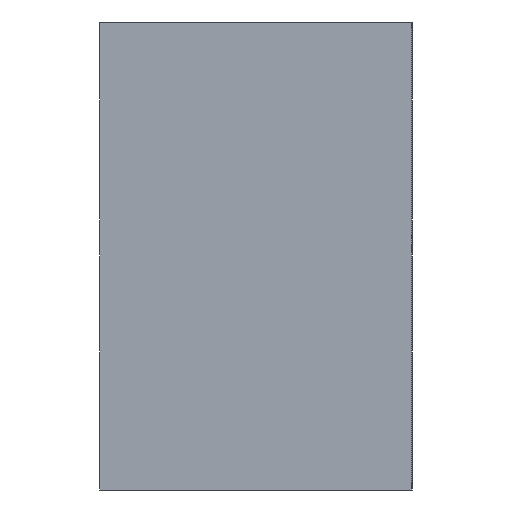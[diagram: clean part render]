
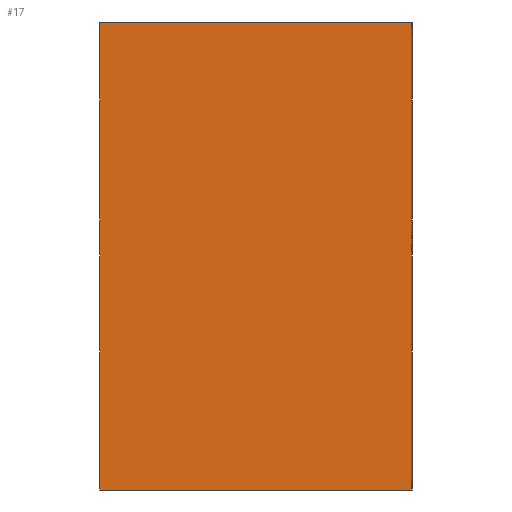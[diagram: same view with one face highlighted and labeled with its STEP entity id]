
A CAD part, left-side view. The second image highlights one B-rep face of the part: STEP entity #17.
In plain terms, the highlighted planar face has unit normal (-1, 0, 0).
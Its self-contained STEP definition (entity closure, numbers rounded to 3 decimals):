
#17 = ADVANCED_FACE('',(#18),#32,.F.);
#18 = FACE_BOUND('',#19,.F.);
#19 = EDGE_LOOP('',(#20,#55,#83,#111));
#20 = ORIENTED_EDGE('',*,*,#21,.F.);
#21 = EDGE_CURVE('',#22,#24,#26,.T.);
#22 = VERTEX_POINT('',#23);
#23 = CARTESIAN_POINT('',(5.,14.5,8.5));
#24 = VERTEX_POINT('',#25);
#25 = CARTESIAN_POINT('',(5.,14.5,11.5));
#26 = SURFACE_CURVE('',#27,(#31,#43),.PCURVE_S1.);
#27 = LINE('',#28,#29);
#28 = CARTESIAN_POINT('',(5.,14.5,8.5));
#29 = VECTOR('',#30,1.);
#30 = DIRECTION('',(0.,0.,1.));
#31 = PCURVE('',#32,#37);
#32 = PLANE('',#33);
#33 = AXIS2_PLACEMENT_3D('',#34,#35,#36);
#34 = CARTESIAN_POINT('',(5.,14.5,8.5));
#35 = DIRECTION('',(1.,0.,-0.));
#36 = DIRECTION('',(0.,0.,1.));
#37 = DEFINITIONAL_REPRESENTATION('',(#38),#42);
#38 = LINE('',#39,#40);
#39 = CARTESIAN_POINT('',(0.,0.));
#40 = VECTOR('',#41,1.);
#41 = DIRECTION('',(1.,0.));
#42 = ( GEOMETRIC_REPRESENTATION_CONTEXT(2) 
PARAMETRIC_REPRESENTATION_CONTEXT() REPRESENTATION_CONTEXT('2D SPACE',''
  ) );
#43 = PCURVE('',#44,#49);
#44 = PLANE('',#45);
#45 = AXIS2_PLACEMENT_3D('',#46,#47,#48);
#46 = CARTESIAN_POINT('',(5.,14.5,8.5));
#47 = DIRECTION('',(-0.,1.,0.));
#48 = DIRECTION('',(0.,0.,1.));
#49 = DEFINITIONAL_REPRESENTATION('',(#50),#54);
#50 = LINE('',#51,#52);
#51 = CARTESIAN_POINT('',(0.,0.));
#52 = VECTOR('',#53,1.);
#53 = DIRECTION('',(1.,0.));
#54 = ( GEOMETRIC_REPRESENTATION_CONTEXT(2) 
PARAMETRIC_REPRESENTATION_CONTEXT() REPRESENTATION_CONTEXT('2D SPACE',''
  ) );
#55 = ORIENTED_EDGE('',*,*,#56,.T.);
#56 = EDGE_CURVE('',#22,#57,#59,.T.);
#57 = VERTEX_POINT('',#58);
#58 = CARTESIAN_POINT('',(5.,16.5,8.5));
#59 = SURFACE_CURVE('',#60,(#64,#71),.PCURVE_S1.);
#60 = LINE('',#61,#62);
#61 = CARTESIAN_POINT('',(5.,14.5,8.5));
#62 = VECTOR('',#63,1.);
#63 = DIRECTION('',(-0.,1.,0.));
#64 = PCURVE('',#32,#65);
#65 = DEFINITIONAL_REPRESENTATION('',(#66),#70);
#66 = LINE('',#67,#68);
#67 = CARTESIAN_POINT('',(0.,0.));
#68 = VECTOR('',#69,1.);
#69 = DIRECTION('',(0.,-1.));
#70 = ( GEOMETRIC_REPRESENTATION_CONTEXT(2) 
PARAMETRIC_REPRESENTATION_CONTEXT() REPRESENTATION_CONTEXT('2D SPACE',''
  ) );
#71 = PCURVE('',#72,#77);
#72 = PLANE('',#73);
#73 = AXIS2_PLACEMENT_3D('',#74,#75,#76);
#74 = CARTESIAN_POINT('',(5.,14.5,8.5));
#75 = DIRECTION('',(0.,0.,1.));
#76 = DIRECTION('',(1.,0.,-0.));
#77 = DEFINITIONAL_REPRESENTATION('',(#78),#82);
#78 = LINE('',#79,#80);
#79 = CARTESIAN_POINT('',(0.,0.));
#80 = VECTOR('',#81,1.);
#81 = DIRECTION('',(0.,1.));
#82 = ( GEOMETRIC_REPRESENTATION_CONTEXT(2) 
PARAMETRIC_REPRESENTATION_CONTEXT() REPRESENTATION_CONTEXT('2D SPACE',''
  ) );
#83 = ORIENTED_EDGE('',*,*,#84,.T.);
#84 = EDGE_CURVE('',#57,#85,#87,.T.);
#85 = VERTEX_POINT('',#86);
#86 = CARTESIAN_POINT('',(5.,16.5,11.5));
#87 = SURFACE_CURVE('',#88,(#92,#99),.PCURVE_S1.);
#88 = LINE('',#89,#90);
#89 = CARTESIAN_POINT('',(5.,16.5,8.5));
#90 = VECTOR('',#91,1.);
#91 = DIRECTION('',(0.,0.,1.));
#92 = PCURVE('',#32,#93);
#93 = DEFINITIONAL_REPRESENTATION('',(#94),#98);
#94 = LINE('',#95,#96);
#95 = CARTESIAN_POINT('',(0.,-2.));
#96 = VECTOR('',#97,1.);
#97 = DIRECTION('',(1.,0.));
#98 = ( GEOMETRIC_REPRESENTATION_CONTEXT(2) 
PARAMETRIC_REPRESENTATION_CONTEXT() REPRESENTATION_CONTEXT('2D SPACE',''
  ) );
#99 = PCURVE('',#100,#105);
#100 = PLANE('',#101);
#101 = AXIS2_PLACEMENT_3D('',#102,#103,#104);
#102 = CARTESIAN_POINT('',(5.,16.5,8.5));
#103 = DIRECTION('',(-0.,1.,0.));
#104 = DIRECTION('',(0.,0.,1.));
#105 = DEFINITIONAL_REPRESENTATION('',(#106),#110);
#106 = LINE('',#107,#108);
#107 = CARTESIAN_POINT('',(0.,0.));
#108 = VECTOR('',#109,1.);
#109 = DIRECTION('',(1.,0.));
#110 = ( GEOMETRIC_REPRESENTATION_CONTEXT(2) 
PARAMETRIC_REPRESENTATION_CONTEXT() REPRESENTATION_CONTEXT('2D SPACE',''
  ) );
#111 = ORIENTED_EDGE('',*,*,#112,.F.);
#112 = EDGE_CURVE('',#24,#85,#113,.T.);
#113 = SURFACE_CURVE('',#114,(#118,#125),.PCURVE_S1.);
#114 = LINE('',#115,#116);
#115 = CARTESIAN_POINT('',(5.,14.5,11.5));
#116 = VECTOR('',#117,1.);
#117 = DIRECTION('',(-0.,1.,0.));
#118 = PCURVE('',#32,#119);
#119 = DEFINITIONAL_REPRESENTATION('',(#120),#124);
#120 = LINE('',#121,#122);
#121 = CARTESIAN_POINT('',(3.,0.));
#122 = VECTOR('',#123,1.);
#123 = DIRECTION('',(0.,-1.));
#124 = ( GEOMETRIC_REPRESENTATION_CONTEXT(2) 
PARAMETRIC_REPRESENTATION_CONTEXT() REPRESENTATION_CONTEXT('2D SPACE',''
  ) );
#125 = PCURVE('',#126,#131);
#126 = PLANE('',#127);
#127 = AXIS2_PLACEMENT_3D('',#128,#129,#130);
#128 = CARTESIAN_POINT('',(5.,14.5,11.5));
#129 = DIRECTION('',(0.,0.,1.));
#130 = DIRECTION('',(1.,0.,-0.));
#131 = DEFINITIONAL_REPRESENTATION('',(#132),#136);
#132 = LINE('',#133,#134);
#133 = CARTESIAN_POINT('',(0.,0.));
#134 = VECTOR('',#135,1.);
#135 = DIRECTION('',(0.,1.));
#136 = ( GEOMETRIC_REPRESENTATION_CONTEXT(2) 
PARAMETRIC_REPRESENTATION_CONTEXT() REPRESENTATION_CONTEXT('2D SPACE',''
  ) );
